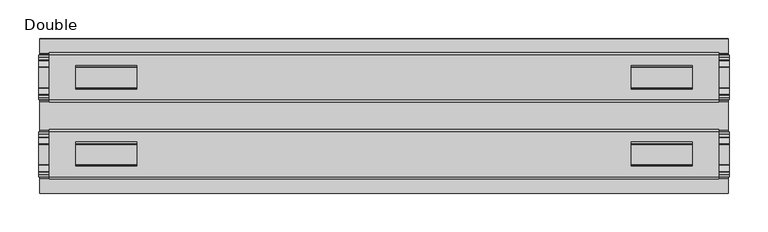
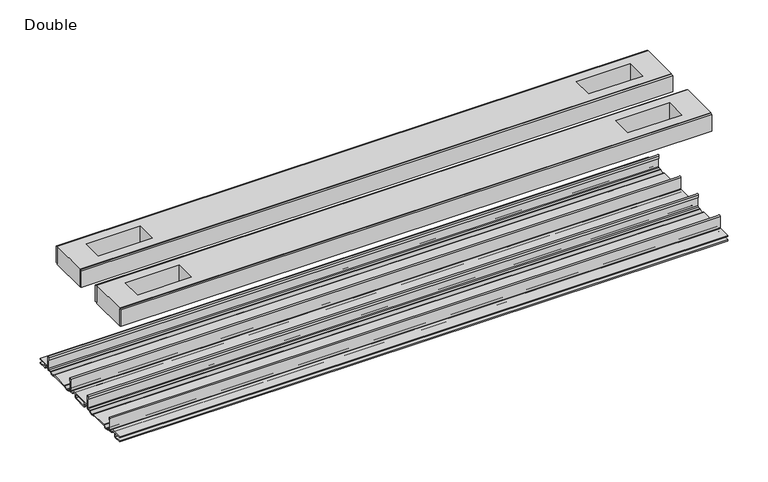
"""IFC4 building model written with IfcOpenShell, lengths in millimetres: proxy geometry, Frame-Teknion-FHCRA-Horizontal_Rail-R2022 : Double."""

from ifc_helpers import new_model, si_unit, point, frame, frame_2d, origin, place, context, project, spatial, polyline, circle_curve, trimmed, segment, composite_curve, outline, extrude, source, transform, mapped, element, save


def double_417845b1(model_context):
    return source(origin(), model_context, "Body", "SweptSolid", [
        extrude(outline(composite_curve([segment(trimmed(circle_curve(frame_2d((76.6483061, -7.7516037)), 2.17424), [point((78.8225461, -7.7516037))], [point((76.6483061, -9.9258438))], False, "CARTESIAN"), True, "CONTINUOUS"), segment(polyline([(76.6483061, -9.9258438), (72.3573194, -9.9258438)]), True, "CONTINUOUS"), segment(trimmed(circle_curve(frame_2d((67.7769049, -6.4800016)), 5.7318431), [point((72.3573194, -9.9258438))], [point((63.1964904, -9.9258438))], False, "CARTESIAN"), True, "CONTINUOUS"), segment(polyline([(63.1964904, -9.9258438), (36.43501, -9.9258438)]), True, "CONTINUOUS"), segment(trimmed(circle_curve(frame_2d((31.8545955, -6.4800016)), 5.7318431), [point((36.43501, -9.9258438))], [point((27.274181, -9.9258438))], False, "CARTESIAN"), True, "CONTINUOUS"), segment(polyline([(27.274181, -9.9258438), (22.9831943, -9.9258438)]), True, "CONTINUOUS"), segment(trimmed(circle_curve(frame_2d((22.9831943, -7.7516037)), 2.17424), [point((22.9831943, -9.9258438))], [point((20.8089542, -7.7516037))], False, "CARTESIAN"), True, "CONTINUOUS"), segment(polyline([(20.8089542, -7.7516037), (20.8089542, 9.8607558)]), True, "CONTINUOUS"), segment(trimmed(circle_curve(frame_2d((22.0281522, 9.8607558)), 1.2191979), [point((20.8089542, 9.8607558))], [point((23.2473501, 9.8607558))], False, "CARTESIAN"), True, "CONTINUOUS"), segment(polyline([(23.2473501, 9.8607558), (23.2473501, 5.9999563), (21.9671735, 5.9999563), (21.9671735, -7.7516037)]), True, "CONTINUOUS"), segment(trimmed(circle_curve(frame_2d((22.9831943, -7.7516037)), 1.0160208), [point((21.9671735, -7.7516037))], [point((22.9766772, -8.7676036))], True, "CARTESIAN"), True, "CONTINUOUS"), segment(polyline([(22.9766772, -8.7676036), (26.9196277, -8.7676036), (27.8329895, -8.968753)]), True, "CONTINUOUS"), segment(trimmed(circle_curve(frame_2d((31.8579482, -6.1259382)), 4.9276657), [point((27.8329895, -8.968753))], [point((35.8829069, -8.968753))], True, "CARTESIAN"), True, "CONTINUOUS"), segment(polyline([(35.8829069, -8.968753), (36.7962778, -8.7676036), (62.8352226, -8.7676036), (63.7485934, -8.968753)]), True, "CONTINUOUS"), segment(trimmed(circle_curve(frame_2d((67.7735521, -6.1259382)), 4.9276657), [point((63.7485934, -8.968753))], [point((71.7985108, -8.968753))], True, "CARTESIAN"), True, "CONTINUOUS"), segment(polyline([(71.7985108, -8.968753), (72.7118726, -8.7676036), (76.6548232, -8.7676036)]), True, "CONTINUOUS"), segment(trimmed(circle_curve(frame_2d((76.6483061, -7.7516037)), 1.0160208), [point((76.6548232, -8.7676036))], [point((77.6643269, -7.7516037))], True, "CARTESIAN"), True, "CONTINUOUS"), segment(polyline([(77.6643269, -7.7516037), (77.6643269, 5.9999563), (76.3841503, 5.9999563), (76.3841503, 9.8607558)]), True, "CONTINUOUS"), segment(trimmed(circle_curve(frame_2d((77.6033482, 9.8607558)), 1.2191979), [point((76.3841503, 9.8607558))], [point((78.8225461, 9.8607558))], False, "CARTESIAN"), True, "CONTINUOUS"), segment(polyline([(78.8225461, 9.8607558), (78.8225461, -7.7516037)]), True, "CONTINUOUS")], self_intersect=False)), frame((-447.7193698, 0.0, 0.0), z_axis=(1.0, 0.0, 0.0), x_axis=(0.0, 1.0, 0.0)), (0.0, 0.0, 1.0), 895.4387397),
        extrude(outline(composite_curve([segment(polyline([(-79.2035458, -7.7516037), (-79.2035458, 9.8607558)]), True, "CONTINUOUS"), segment(trimmed(circle_curve(frame_2d((-77.9843478, 9.8607558)), 1.2191979), [point((-79.2035458, 9.8607558))], [point((-76.7651499, 9.8607558))], False, "CARTESIAN"), True, "CONTINUOUS"), segment(polyline([(-76.7651499, 9.8607558), (-76.7651499, 5.9999563), (-78.0453265, 5.9999563), (-78.0453265, -7.7516037)]), True, "CONTINUOUS"), segment(trimmed(circle_curve(frame_2d((-77.0293057, -7.7516037)), 1.0160208), [point((-78.0453265, -7.7516037))], [point((-77.0358228, -8.7676036))], True, "CARTESIAN"), True, "CONTINUOUS"), segment(polyline([(-77.0358228, -8.7676036), (-73.0928723, -8.7676036), (-72.1795105, -8.968753)]), True, "CONTINUOUS"), segment(trimmed(circle_curve(frame_2d((-68.1545518, -6.1259382)), 4.9276657), [point((-72.1795105, -8.968753))], [point((-64.1295931, -8.968753))], True, "CARTESIAN"), True, "CONTINUOUS"), segment(polyline([(-64.1295931, -8.968753), (-63.2162222, -8.7676036), (-37.1772774, -8.7676036), (-36.2639066, -8.968753)]), True, "CONTINUOUS"), segment(trimmed(circle_curve(frame_2d((-32.2389479, -6.1259382)), 4.9276657), [point((-36.2639066, -8.968753))], [point((-28.2139892, -8.968753))], True, "CARTESIAN"), True, "CONTINUOUS"), segment(polyline([(-28.2139892, -8.968753), (-27.3006274, -8.7676036), (-23.3576768, -8.7676036)]), True, "CONTINUOUS"), segment(trimmed(circle_curve(frame_2d((-23.3641939, -7.7516037)), 1.0160208), [point((-23.3576768, -8.7676036))], [point((-22.3481731, -7.7516037))], True, "CARTESIAN"), True, "CONTINUOUS"), segment(polyline([(-22.3481731, -7.7516037), (-22.3481731, 5.9999563), (-23.6283497, 5.9999563), (-23.6283497, 9.8607558)]), True, "CONTINUOUS"), segment(trimmed(circle_curve(frame_2d((-22.4091518, 9.8607558)), 1.2191979), [point((-23.6283497, 9.8607558))], [point((-21.1899539, 9.8607558))], False, "CARTESIAN"), True, "CONTINUOUS"), segment(polyline([(-21.1899539, 9.8607558), (-21.1899539, -7.7516037)]), True, "CONTINUOUS"), segment(trimmed(circle_curve(frame_2d((-23.3641939, -7.7516037)), 2.17424), [point((-21.1899539, -7.7516037))], [point((-23.3641939, -9.9258438))], False, "CARTESIAN"), True, "CONTINUOUS"), segment(polyline([(-23.3641939, -9.9258438), (-27.6551806, -9.9258438)]), True, "CONTINUOUS"), segment(trimmed(circle_curve(frame_2d((-32.2355951, -6.4800016)), 5.7318431), [point((-27.6551806, -9.9258438))], [point((-36.8160096, -9.9258438))], False, "CARTESIAN"), True, "CONTINUOUS"), segment(polyline([(-36.8160096, -9.9258438), (-63.57749, -9.9258438)]), True, "CONTINUOUS"), segment(trimmed(circle_curve(frame_2d((-68.1579045, -6.4800016)), 5.7318431), [point((-63.57749, -9.9258438))], [point((-72.738319, -9.9258438))], False, "CARTESIAN"), True, "CONTINUOUS"), segment(polyline([(-72.738319, -9.9258438), (-77.0293057, -9.9258438)]), True, "CONTINUOUS"), segment(trimmed(circle_curve(frame_2d((-77.0293057, -7.7516037)), 2.17424), [point((-77.0293057, -9.9258438))], [point((-79.2035458, -7.7516037))], False, "CARTESIAN"), True, "CONTINUOUS")], self_intersect=False)), frame((-447.7193698, 0.0, 0.0), z_axis=(1.0, 0.0, 0.0), x_axis=(0.0, 1.0, 0.0)), (0.0, 0.0, 1.0), 895.4387397),
        extrude(outline(polyline([(433.660479, 78.8225461), (-433.660479, 78.8225461), (-433.660479, 81.9975522), (433.660479, 81.9975522), (433.660479, 78.8225461)])), frame((0.0, 0.0, 149.8401622), z_axis=(0.0, 0.0, 1.0), x_axis=(1.0, 0.0, 0.0)), (0.0, 0.0, 1.0), 25.3999939),
        extrude(outline(polyline([(433.660479, 17.6339482), (-433.660479, 17.6339482), (-433.660479, 20.8089542), (433.660479, 20.8089542), (433.660479, 17.6339482)])), frame((0.0, 0.0, 149.8401622), z_axis=(0.0, 0.0, 1.0), x_axis=(1.0, 0.0, 0.0)), (0.0, 0.0, 1.0), 25.3999939),
        extrude(outline(polyline([(433.660479, -21.1899493), (-433.660479, -21.1899493), (-433.660479, -18.0149501), (433.660479, -18.0149501), (433.660479, -21.1899493)])), frame((0.0, 0.0, 149.8401622), z_axis=(0.0, 0.0, 1.0), x_axis=(1.0, 0.0, 0.0)), (0.0, 0.0, 1.0), 25.3999939),
        extrude(outline(polyline([(433.660479, -82.3785496), (-433.660479, -82.3785496), (-433.660479, -79.2035503), (433.660479, -79.2035503), (433.660479, -82.3785496)])), frame((0.0, 0.0, 149.8401622), z_axis=(0.0, 0.0, 1.0), x_axis=(1.0, 0.0, 0.0)), (0.0, 0.0, 1.0), 25.3999939),
        extrude(outline(polyline([(433.660479, -79.2035503), (-433.660479, -79.2035503), (-433.660479, -21.1899493), (433.660479, -21.1899493), (433.660479, -79.2035503)]), holes=[polyline([(399.2434664, -65.3097536), (399.2434664, -34.3217468), (320.1986545, -34.3217468), (320.1986545, -65.3097536), (399.2434664, -65.3097536)]), polyline([(-399.2434664, -65.3097536), (-320.1986545, -65.3097536), (-320.1986545, -34.3217468), (-399.2434664, -34.3217468), (-399.2434664, -65.3097536)])]), frame((0.0, 0.0, 148.4185847), z_axis=(0.0, 0.0, 1.0), x_axis=(1.0, 0.0, 0.0)), (0.0, 0.0, 1.0), 27.9999988),
        extrude(outline(polyline([(433.660479, 78.8225461), (433.660479, 20.8224524), (-433.660479, 20.8224524), (-433.660479, 78.8225461), (433.660479, 78.8225461)]), holes=[polyline([(399.2434664, 65.3097536), (320.1986545, 65.3097536), (320.1986545, 34.3217468), (399.2434664, 34.3217468), (399.2434664, 65.3097536)]), polyline([(-399.2434664, 65.3097536), (-399.2434664, 34.3217468), (-320.1986545, 34.3217468), (-320.1986545, 65.3097536), (-399.2434664, 65.3097536)])]), frame((0.0, 0.0, 148.4185847), z_axis=(0.0, 0.0, 1.0), x_axis=(1.0, 0.0, 0.0)), (0.0, 0.0, 1.0), 27.9999988),
        extrude(outline(composite_curve([segment(polyline([(100.2730922, -13.9898438), (89.6620022, -13.9898438)]), True, "CONTINUOUS"), segment(trimmed(circle_curve(frame_2d((89.6620022, -12.4658438)), 1.524), [point((89.6620022, -13.9898438))], [point((88.1380022, -12.4658438))], False, "CARTESIAN"), True, "CONTINUOUS"), segment(polyline([(88.1380022, -12.4658438), (88.1380022, -7.766844), (81.3117474, -7.766844), (81.3117474, -10.0528438)]), True, "CONTINUOUS"), segment(trimmed(circle_curve(frame_2d((79.7877474, -10.0528438)), 1.524), [point((81.3117474, -10.0528438))], [point((79.7877474, -11.5768438))], False, "CARTESIAN"), True, "CONTINUOUS"), segment(polyline([(79.7877474, -11.5768438), (73.2816053, -11.5768438)]), True, "CONTINUOUS"), segment(trimmed(circle_curve(frame_2d((67.7735521, -6.4968436)), 7.4930002), [point((73.2816053, -11.5768438))], [point((62.5157472, -11.8354331))], False, "CARTESIAN"), True, "CONTINUOUS"), segment(polyline([(62.5157472, -11.8354331), (37.1157532, -11.8354331)]), True, "CONTINUOUS"), segment(trimmed(circle_curve(frame_2d((31.8579482, -6.4968436)), 7.4930002), [point((37.1157532, -11.8354331))], [point((26.3498951, -11.5768438))], False, "CARTESIAN"), True, "CONTINUOUS"), segment(polyline([(26.3498951, -11.5768438), (19.8437529, -11.5768438)]), True, "CONTINUOUS"), segment(trimmed(circle_curve(frame_2d((19.8437529, -10.0528438)), 1.524), [point((19.8437529, -11.5768438))], [point((18.319753, -10.0528438))], False, "CARTESIAN"), True, "CONTINUOUS"), segment(polyline([(18.319753, -10.0528438), (18.319753, -7.766844), (11.4934981, -7.766844), (11.4934981, -12.4658438)]), True, "CONTINUOUS"), segment(trimmed(circle_curve(frame_2d((9.9694982, -12.4658438)), 1.524), [point((11.4934981, -12.4658438))], [point((9.9694982, -13.9898438))], False, "CARTESIAN"), True, "CONTINUOUS"), segment(polyline([(9.9694982, -13.9898438), (-10.3504978, -13.9898438)]), True, "CONTINUOUS"), segment(trimmed(circle_curve(frame_2d((-10.3504978, -12.4658438)), 1.524), [point((-10.3504978, -13.9898438))], [point((-11.8744978, -12.4658438))], False, "CARTESIAN"), True, "CONTINUOUS"), segment(polyline([(-11.8744978, -12.4658438), (-11.8744978, -7.766844), (-18.7007526, -7.766844), (-18.7007526, -10.0528438)]), True, "CONTINUOUS"), segment(trimmed(circle_curve(frame_2d((-20.2247526, -10.0528438)), 1.524), [point((-18.7007526, -10.0528438))], [point((-20.2247526, -11.5768438))], False, "CARTESIAN"), True, "CONTINUOUS"), segment(polyline([(-20.2247526, -11.5768438), (-26.7308947, -11.5768438)]), True, "CONTINUOUS"), segment(trimmed(circle_curve(frame_2d((-32.2389479, -6.4968436)), 7.4930002), [point((-26.7308947, -11.5768438))], [point((-37.4967528, -11.8354331))], False, "CARTESIAN"), True, "CONTINUOUS"), segment(polyline([(-37.4967528, -11.8354331), (-62.8967468, -11.8354331)]), True, "CONTINUOUS"), segment(trimmed(circle_curve(frame_2d((-68.1545518, -6.4968436)), 7.4930002), [point((-62.8967468, -11.8354331))], [point((-73.6626049, -11.5768438))], False, "CARTESIAN"), True, "CONTINUOUS"), segment(polyline([(-73.6626049, -11.5768438), (-80.1687471, -11.5768438)]), True, "CONTINUOUS"), segment(trimmed(circle_curve(frame_2d((-80.1687471, -10.0528438)), 1.524), [point((-80.1687471, -11.5768438))], [point((-81.692747, -10.0528438))], False, "CARTESIAN"), True, "CONTINUOUS"), segment(polyline([(-81.692747, -10.0528438), (-81.692747, -7.766844), (-88.5190019, -7.766844), (-88.5190019, -12.4658438)]), True, "CONTINUOUS"), segment(trimmed(circle_curve(frame_2d((-90.0430018, -12.4658438)), 1.524), [point((-88.5190019, -12.4658438))], [point((-90.0430018, -13.9898438))], False, "CARTESIAN"), True, "CONTINUOUS"), segment(polyline([(-90.0430018, -13.9898438), (-100.6540918, -13.9898438), (-100.6112708, -12.3388438), (-90.1700003, -12.3388438), (-90.1700003, -7.766844), (-100.6112708, -7.766844), (-100.6540918, -6.1158439), (-81.6301718, -6.1158439)]), True, "CONTINUOUS"), segment(trimmed(circle_curve(frame_2d((-81.6927482, -7.7656583)), 1.6510007), [point((-81.6301718, -6.1158439))], [point((-80.0417475, -7.7656583))], False, "CARTESIAN"), True, "CONTINUOUS"), segment(polyline([(-80.0417475, -7.7656583), (-80.0417475, -9.9258438), (-73.493084, -9.9258438)]), True, "CONTINUOUS"), segment(trimmed(circle_curve(frame_2d((-68.1545518, -5.2268471)), 7.1119966), [point((-73.493084, -9.9258438))], [point((-62.8160195, -9.9258438))], True, "CARTESIAN"), True, "CONTINUOUS"), segment(polyline([(-62.8160195, -9.9258438), (-37.5774801, -9.9258438)]), True, "CONTINUOUS"), segment(trimmed(circle_curve(frame_2d((-32.2389479, -5.2268471)), 7.1119966), [point((-37.5774801, -9.9258438))], [point((-26.9004156, -9.9258438))], True, "CARTESIAN"), True, "CONTINUOUS"), segment(polyline([(-26.9004156, -9.9258438), (-20.3517522, -9.9258438), (-20.3517522, -7.7656583)]), True, "CONTINUOUS"), segment(trimmed(circle_curve(frame_2d((-18.7007515, -7.7656583)), 1.6510007), [point((-20.3517522, -7.7656583))], [point((-18.7633278, -6.1158439))], False, "CARTESIAN"), True, "CONTINUOUS"), segment(polyline([(-18.7633278, -6.1158439), (18.3823282, -6.1158439)]), True, "CONTINUOUS"), segment(trimmed(circle_curve(frame_2d((18.3197518, -7.7656583)), 1.6510007), [point((18.3823282, -6.1158439))], [point((19.9707525, -7.7656583))], False, "CARTESIAN"), True, "CONTINUOUS"), segment(polyline([(19.9707525, -7.7656583), (19.9707525, -9.9258438), (26.519416, -9.9258438)]), True, "CONTINUOUS"), segment(trimmed(circle_curve(frame_2d((31.8579482, -5.2268471)), 7.1119966), [point((26.519416, -9.9258438))], [point((37.1964805, -9.9258438))], True, "CARTESIAN"), True, "CONTINUOUS"), segment(polyline([(37.1964805, -9.9258438), (62.4350199, -9.9258438)]), True, "CONTINUOUS"), segment(trimmed(circle_curve(frame_2d((67.7735521, -5.2268471)), 7.1119966), [point((62.4350199, -9.9258438))], [point((73.1120844, -9.9258438))], True, "CARTESIAN"), True, "CONTINUOUS"), segment(polyline([(73.1120844, -9.9258438), (79.6607478, -9.9258438), (79.6607478, -7.6398436)]), True, "CONTINUOUS"), segment(trimmed(circle_curve(frame_2d((81.1847475, -7.6398436)), 1.5239997), [point((79.6607478, -7.6398436))], [point((81.1847475, -6.1158439))], False, "CARTESIAN"), True, "CONTINUOUS"), segment(polyline([(81.1847475, -6.1158439), (100.2730922, -6.1158439), (100.2302711, -7.766844), (89.7890007, -7.766844), (89.7890007, -12.3388438), (100.2302711, -12.3388438), (100.2730922, -13.9898438)]), True, "CONTINUOUS")], self_intersect=False), holes=[polyline([(9.8424997, -12.3388438), (9.8424997, -7.766844), (-10.2234993, -7.766844), (-10.2234993, -12.3388438), (9.8424997, -12.3388438)])]), frame((-446.0683698, 0.0, 0.0), z_axis=(1.0, 0.0, 0.0), x_axis=(0.0, 1.0, 0.0)), (0.0, 0.0, 1.0), 892.1367397),
    ])


if __name__ == "__main__":
    model = new_model("IFC4")
    model_context = context("Model", 3, world=origin())
    ifc_project = project(units=[si_unit("LENGTHUNIT", "METRE", prefix="MILLI")], contexts=[model_context])
    site = spatial("IfcSite", under=ifc_project)
    building = spatial("IfcBuilding", under=site)
    placement = place(None, origin())
    double_shape = double_417845b1(model_context)
    element("IfcBuildingElementProxy", 1, Name="Frame-Teknion-FHCRA-Horizontal_Rail-R2022 : Double", ObjectType="Frame-Teknion-FHCRA-Horizontal_Rail-R2022 : Double", at=placement, inside=building, context=model_context, shape_type="MappedRepresentation", body=[
        mapped(double_shape, transform((0.0, 0.0, 0.0), x_axis=(1.0, 0.0, 0.0), y_axis=(0.0, 1.0, 0.0), z_axis=(0.0, 0.0, 1.0))),
    ])
    save(model, "model.ifc")
